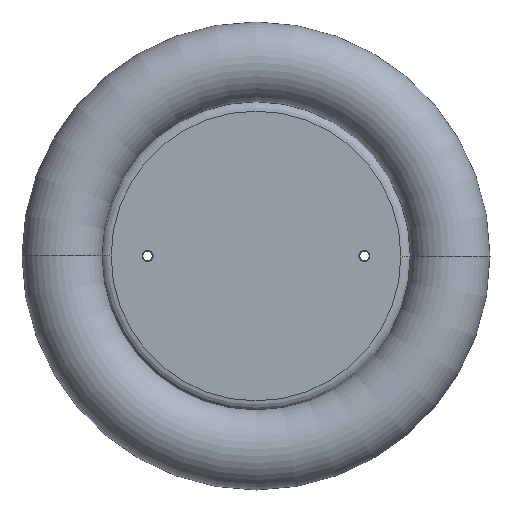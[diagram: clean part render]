
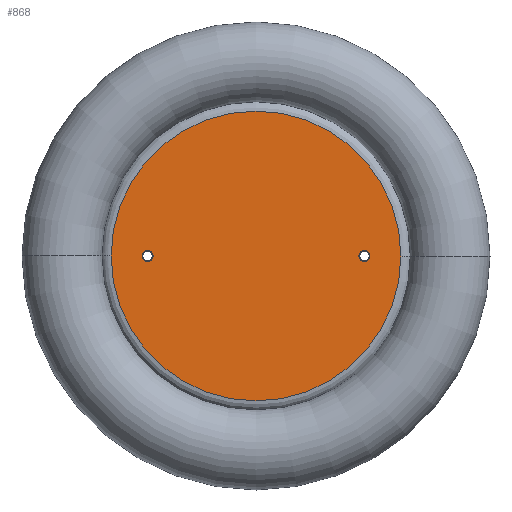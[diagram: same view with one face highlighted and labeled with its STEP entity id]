
A CAD part, front view. The second image highlights one B-rep face of the part: STEP entity #868.
In plain terms, the highlighted planar face has unit normal (0, -1, 0).
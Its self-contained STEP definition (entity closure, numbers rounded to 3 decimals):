
#199=CARTESIAN_POINT('',(0.,-38.5,0.));
#200=DIRECTION('',(0.,-1.,0.));
#201=DIRECTION('',(-1.,0.,0.));
#202=AXIS2_PLACEMENT_3D('',#199,#200,#201);
#204=CARTESIAN_POINT('',(0.,-38.5,0.));
#205=DIRECTION('',(0.,1.,0.));
#206=DIRECTION('',(-1.,0.,0.));
#207=AXIS2_PLACEMENT_3D('',#204,#205,#206);
#209=CARTESIAN_POINT('',(-78.75,-38.5,0.));
#210=DIRECTION('',(0.,1.,0.));
#211=DIRECTION('',(1.,0.,0.));
#212=AXIS2_PLACEMENT_3D('',#209,#210,#211);
#214=CARTESIAN_POINT('',(-78.75,-38.5,0.));
#215=DIRECTION('',(0.,1.,0.));
#216=DIRECTION('',(-1.,0.,0.));
#217=AXIS2_PLACEMENT_3D('',#214,#215,#216);
#219=CARTESIAN_POINT('',(78.75,-38.5,0.));
#220=DIRECTION('',(0.,1.,0.));
#221=DIRECTION('',(1.,0.,0.));
#222=AXIS2_PLACEMENT_3D('',#219,#220,#221);
#224=CARTESIAN_POINT('',(78.75,-38.5,0.));
#225=DIRECTION('',(0.,1.,0.));
#226=DIRECTION('',(-1.,0.,0.));
#227=AXIS2_PLACEMENT_3D('',#224,#225,#226);
#469=CARTESIAN_POINT('',(-105.25,-38.5,0.));
#470=CARTESIAN_POINT('',(105.25,-38.5,0.));
#471=VERTEX_POINT('',#469);
#472=VERTEX_POINT('',#470);
#501=CARTESIAN_POINT('',(-74.75,-38.5,0.));
#502=CARTESIAN_POINT('',(-82.75,-38.5,0.));
#503=VERTEX_POINT('',#501);
#504=VERTEX_POINT('',#502);
#509=CARTESIAN_POINT('',(82.75,-38.5,0.));
#510=CARTESIAN_POINT('',(74.75,-38.5,0.));
#511=VERTEX_POINT('',#509);
#512=VERTEX_POINT('',#510);
#847=CARTESIAN_POINT('',(0.,-38.5,0.));
#848=DIRECTION('',(0.,1.,0.));
#849=DIRECTION('',(1.,0.,0.));
#850=AXIS2_PLACEMENT_3D('',#847,#848,#849);
#851=PLANE('',#850);
#852=ORIENTED_EDGE('',*,*,#839,.F.);
#853=ORIENTED_EDGE('',*,*,#828,.T.);
#854=EDGE_LOOP('',(#852,#853));
#855=FACE_OUTER_BOUND('',#854,.F.);
#857=ORIENTED_EDGE('',*,*,#856,.F.);
#859=ORIENTED_EDGE('',*,*,#858,.F.);
#860=EDGE_LOOP('',(#857,#859));
#861=FACE_BOUND('',#860,.F.);
#863=ORIENTED_EDGE('',*,*,#862,.F.);
#865=ORIENTED_EDGE('',*,*,#864,.F.);
#866=EDGE_LOOP('',(#863,#865));
#867=FACE_BOUND('',#866,.F.);
#868=ADVANCED_FACE('',(#855,#861,#867),#851,.F.);
#203=CIRCLE('',#202,105.25);
#208=CIRCLE('',#207,105.25);
#213=CIRCLE('',#212,4.);
#218=CIRCLE('',#217,4.);
#223=CIRCLE('',#222,4.);
#228=CIRCLE('',#227,4.);
#828=EDGE_CURVE('',#471,#472,#208,.T.);
#839=EDGE_CURVE('',#471,#472,#203,.T.);
#856=EDGE_CURVE('',#503,#504,#213,.T.);
#858=EDGE_CURVE('',#504,#503,#218,.T.);
#862=EDGE_CURVE('',#511,#512,#223,.T.);
#864=EDGE_CURVE('',#512,#511,#228,.T.);
